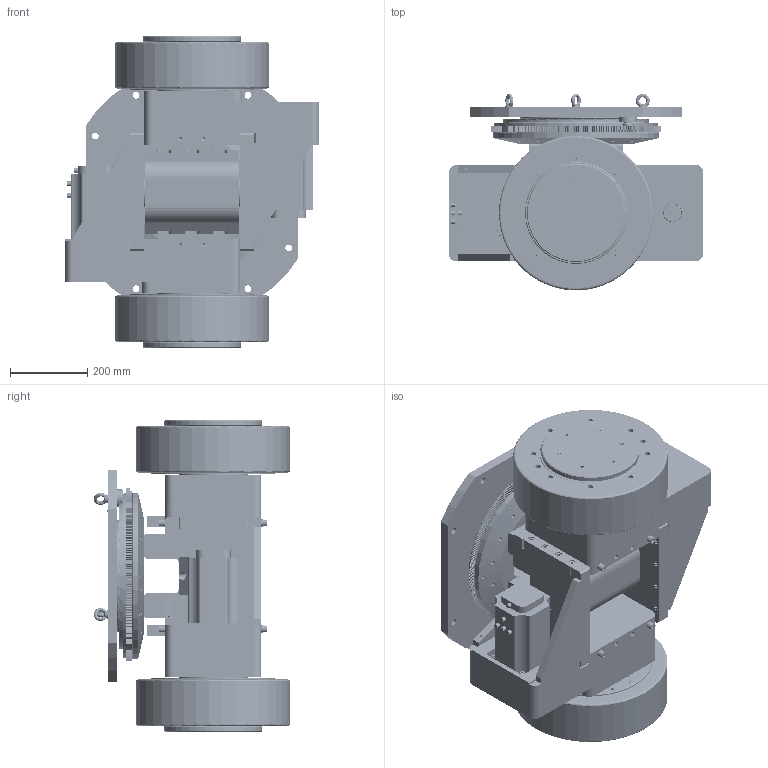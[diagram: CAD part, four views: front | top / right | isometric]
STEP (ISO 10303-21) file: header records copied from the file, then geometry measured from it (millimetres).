
FILE_DESCRIPTION (( 'STEP AP214' ), '1' );
FILE_NAME ('TEC-400P3000BS-80-48D.STEP', '2022-06-24T03:32:01', ( 'admin' ), ( 'Microsoft' ), 'SwSTEP 2.0', 'SolidWorks 2012', '' );
FILE_SCHEMA (( 'AUTOMOTIVE_DESIGN' ));
Length unit declared in the file: millimetre
Products named in the file (1): TEC-400P3000BS-80-48D
Bounding box: 660 x 510.1 x 808 mm (x, y, z)
Volume: 92131796.3 mm3; surface area: 5228094.3 mm2
Topology: 138 solids, 177 shells, 6245 faces, 15552 edges, 10129 vertices
Faces by surface type: cylinder 2711, plane 1780, bspline 1143, cone 611
Entity records: 224428 total; most frequent: CARTESIAN_POINT 75995, ORIENTED_EDGE 30768, DIRECTION 30319, EDGE_CURVE 15384, AXIS2_PLACEMENT_3D 11956, VERTEX_POINT 10127, EDGE_LOOP 7229, CIRCLE 6853
